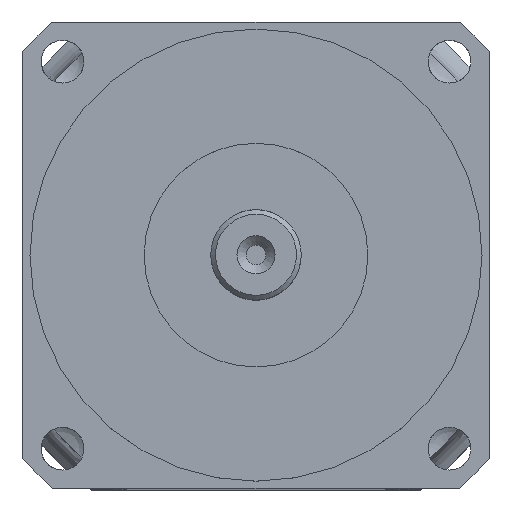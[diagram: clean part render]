
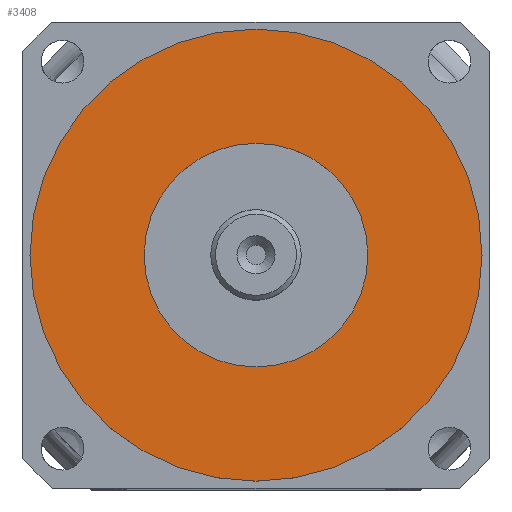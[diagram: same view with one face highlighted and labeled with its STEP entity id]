
A CAD part, top view. The second image highlights one B-rep face of the part: STEP entity #3408.
In plain terms, the highlighted planar face has unit normal (0, 0, 1).
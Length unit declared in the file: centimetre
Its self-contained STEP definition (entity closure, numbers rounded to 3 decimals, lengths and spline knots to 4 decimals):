
#1014=VERTEX_POINT('',#8160);
#1016=VERTEX_POINT('',#8165);
#1450=EDGE_CURVE('',#1014,#1014,#4012,.T.);
#1452=EDGE_CURVE('',#1016,#1016,#4014,.T.);
#2031=ORIENTED_EDGE('',*,*,#1452,.F.);
#2032=ORIENTED_EDGE('',*,*,#1450,.F.);
#2884=EDGE_LOOP('',(#2031));
#2885=EDGE_LOOP('',(#2032));
#3154=FACE_BOUND('',#2884,.T.);
#3155=FACE_BOUND('',#2885,.T.);
#3408=ADVANCED_FACE('',(#3154,#3155),#6512,.T.);
#4012=CIRCLE('',#5866,4.75);
#4014=CIRCLE('',#5869,2.35);
#5866=AXIS2_PLACEMENT_3D('',#8159,#10147,#10148);
#5869=AXIS2_PLACEMENT_3D('',#8164,#10153,#10154);
#5871=AXIS2_PLACEMENT_3D('',#8168,#10157,$);
#6512=PLANE('',#5871);
#8159=CARTESIAN_POINT('',(0.,0.,1.6));
#8160=CARTESIAN_POINT('',(4.75,0.,1.6));
#8164=CARTESIAN_POINT('',(0.,0.,1.6));
#8165=CARTESIAN_POINT('',(2.35,0.,1.6));
#8168=CARTESIAN_POINT('',(0.,0.,1.6));
#10147=DIRECTION('',(0.,0.,-1.));
#10148=DIRECTION('',(4.75,0.,0.));
#10153=DIRECTION('',(0.,0.,1.));
#10154=DIRECTION('',(2.35,0.,0.));
#10157=DIRECTION('',(0.,0.,1.));
